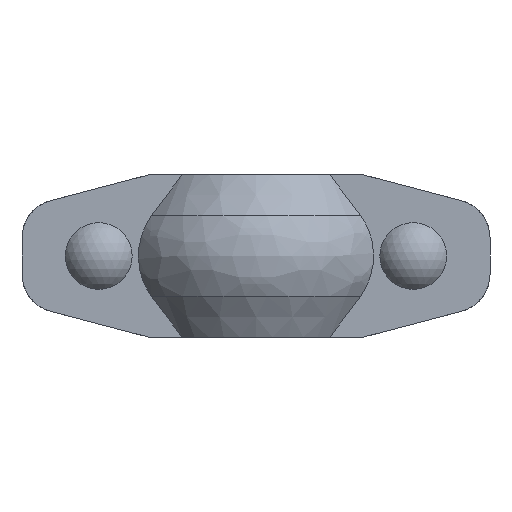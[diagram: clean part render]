
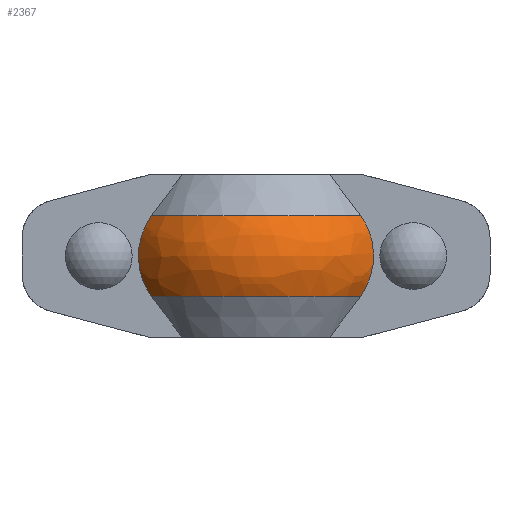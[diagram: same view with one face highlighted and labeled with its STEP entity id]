
A CAD part, front view. The second image highlights one B-rep face of the part: STEP entity #2367.
In plain terms, the highlighted free-form (B-spline) face has degree [2, 2] with [3, 5] control points.
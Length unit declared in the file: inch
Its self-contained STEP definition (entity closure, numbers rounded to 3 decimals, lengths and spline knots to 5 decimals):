
#45=(
BOUNDED_SURFACE()
B_SPLINE_SURFACE(2,2,((#4635,#4636,#4637,#4638,#4639),(#4640,#4641,#4642,
#4643,#4644),(#4645,#4646,#4647,#4648,#4649)),.UNSPECIFIED.,.F.,.F.,.F.)
B_SPLINE_SURFACE_WITH_KNOTS((3,3),(3,2,3),(-0.52695,0.52695),
(0.55733,1.5708,2.58426),.UNSPECIFIED.)
GEOMETRIC_REPRESENTATION_ITEM()
RATIONAL_B_SPLINE_SURFACE(((1.,0.874,1.,0.874,1.),
(0.864,0.756,0.864,0.756,
0.864),(1.,0.874,1.,0.874,1.)))
REPRESENTATION_ITEM('')
SURFACE()
);
#80=B_SPLINE_CURVE_WITH_KNOTS('',3,(#4547,#4548,#4549,#4550,#4551,#4552,
#4553,#4554,#4555,#4556,#4557,#4558,#4559,#4560,#4561,#4562,#4563,#4564),
 .UNSPECIFIED.,.F.,.F.,(4,2,2,2,2,2,2,2,4),(13.65223,13.80191,
14.2161,14.60681,14.99752,15.38823,15.77894,
16.19314,16.34281),.UNSPECIFIED.);
#83=B_SPLINE_CURVE_WITH_KNOTS('',3,(#4594,#4595,#4596,#4597,#4598,#4599,
#4600,#4601,#4602,#4603,#4604,#4605,#4606,#4607,#4608,#4609,#4610,#4611),
 .UNSPECIFIED.,.F.,.F.,(4,2,2,2,2,2,2,2,4),(3.65388,3.80356,
4.21776,4.60846,4.99917,5.38988,5.78059,
6.19479,6.34446),.UNSPECIFIED.);
#322=FACE_OUTER_BOUND('',#459,.T.);
#459=EDGE_LOOP('',(#2056,#2057,#2058,#2059));
#881=CIRCLE('',#2618,1.67261);
#885=CIRCLE('',#2624,1.67261);
#1088=VERTEX_POINT('',#4541);
#1089=VERTEX_POINT('',#4546);
#1095=VERTEX_POINT('',#4588);
#1096=VERTEX_POINT('',#4593);
#1401=EDGE_CURVE('',#1089,#1088,#80,.T.);
#1411=EDGE_CURVE('',#1096,#1095,#83,.T.);
#1418=EDGE_CURVE('',#1096,#1088,#881,.T.);
#1422=EDGE_CURVE('',#1089,#1095,#885,.T.);
#2056=ORIENTED_EDGE('',*,*,#1411,.T.);
#2057=ORIENTED_EDGE('',*,*,#1422,.F.);
#2058=ORIENTED_EDGE('',*,*,#1401,.T.);
#2059=ORIENTED_EDGE('',*,*,#1418,.F.);
#2367=ADVANCED_FACE('',(#322),#45,.F.);
#2618=AXIS2_PLACEMENT_3D('',#4629,#3262,#3263);
#2624=AXIS2_PLACEMENT_3D('',#4650,#3274,#3275);
#3262=DIRECTION('center_axis',(0.,0.,1.));
#3263=DIRECTION('ref_axis',(0.,1.,0.));
#3274=DIRECTION('center_axis',(0.,0.,-1.));
#3275=DIRECTION('ref_axis',(0.,1.,0.));
#4541=CARTESIAN_POINT('',(1.36968,-0.96,0.52788));
#4546=CARTESIAN_POINT('',(1.36968,-0.96,-0.52788));
#4547=CARTESIAN_POINT('Ctrl Pts',(1.36968,-0.96,-0.52788));
#4548=CARTESIAN_POINT('Ctrl Pts',(1.38197,-0.96,-0.51058));
#4549=CARTESIAN_POINT('Ctrl Pts',(1.39381,-0.96,-0.49269));
#4550=CARTESIAN_POINT('Ctrl Pts',(1.43606,-0.96,-0.42384));
#4551=CARTESIAN_POINT('Ctrl Pts',(1.46203,-0.96,-0.37018));
#4552=CARTESIAN_POINT('Ctrl Pts',(1.49961,-0.96,-0.27145));
#4553=CARTESIAN_POINT('Ctrl Pts',(1.51524,-0.96,-0.21741));
#4554=CARTESIAN_POINT('Ctrl Pts',(1.53561,-0.96,-0.10732));
#4555=CARTESIAN_POINT('Ctrl Pts',(1.54033,-0.96,-0.05127));
#4556=CARTESIAN_POINT('Ctrl Pts',(1.54033,-0.96,0.05127));
#4557=CARTESIAN_POINT('Ctrl Pts',(1.53561,-0.96,0.10732));
#4558=CARTESIAN_POINT('Ctrl Pts',(1.51524,-0.96,0.21741));
#4559=CARTESIAN_POINT('Ctrl Pts',(1.49961,-0.96,0.27145));
#4560=CARTESIAN_POINT('Ctrl Pts',(1.46203,-0.96,0.37018));
#4561=CARTESIAN_POINT('Ctrl Pts',(1.43606,-0.96,0.42384));
#4562=CARTESIAN_POINT('Ctrl Pts',(1.39381,-0.96,0.49269));
#4563=CARTESIAN_POINT('Ctrl Pts',(1.38197,-0.96,0.51058));
#4564=CARTESIAN_POINT('Ctrl Pts',(1.36968,-0.96,0.52788));
#4588=CARTESIAN_POINT('',(-1.36968,-0.96,-0.52788));
#4593=CARTESIAN_POINT('',(-1.36968,-0.96,0.52788));
#4594=CARTESIAN_POINT('Ctrl Pts',(-1.36968,-0.96,0.52788));
#4595=CARTESIAN_POINT('Ctrl Pts',(-1.38197,-0.96,0.51058));
#4596=CARTESIAN_POINT('Ctrl Pts',(-1.39381,-0.96,0.49269));
#4597=CARTESIAN_POINT('Ctrl Pts',(-1.43606,-0.96,0.42384));
#4598=CARTESIAN_POINT('Ctrl Pts',(-1.46203,-0.96,0.37018));
#4599=CARTESIAN_POINT('Ctrl Pts',(-1.49961,-0.96,0.27145));
#4600=CARTESIAN_POINT('Ctrl Pts',(-1.51524,-0.96,0.21741));
#4601=CARTESIAN_POINT('Ctrl Pts',(-1.53561,-0.96,0.10732));
#4602=CARTESIAN_POINT('Ctrl Pts',(-1.54033,-0.96,0.05127));
#4603=CARTESIAN_POINT('Ctrl Pts',(-1.54033,-0.96,-0.05127));
#4604=CARTESIAN_POINT('Ctrl Pts',(-1.53561,-0.96,-0.10732));
#4605=CARTESIAN_POINT('Ctrl Pts',(-1.51524,-0.96,-0.21741));
#4606=CARTESIAN_POINT('Ctrl Pts',(-1.49961,-0.96,-0.27145));
#4607=CARTESIAN_POINT('Ctrl Pts',(-1.46203,-0.96,-0.37018));
#4608=CARTESIAN_POINT('Ctrl Pts',(-1.43606,-0.96,-0.42384));
#4609=CARTESIAN_POINT('Ctrl Pts',(-1.39381,-0.96,-0.49269));
#4610=CARTESIAN_POINT('Ctrl Pts',(-1.38197,-0.96,-0.51058));
#4611=CARTESIAN_POINT('Ctrl Pts',(-1.36968,-0.96,-0.52788));
#4629=CARTESIAN_POINT('Origin',(0.,0.,0.52788));
#4635=CARTESIAN_POINT('Ctrl Pts',(1.41949,-0.88468,0.52788));
#4636=CARTESIAN_POINT('Ctrl Pts',(0.92842,-1.67261,0.52788));
#4637=CARTESIAN_POINT('Ctrl Pts',(0.,-1.67261,
0.52788));
#4638=CARTESIAN_POINT('Ctrl Pts',(-0.92842,-1.67261,0.52788));
#4639=CARTESIAN_POINT('Ctrl Pts',(-1.41949,-0.88468,
0.52788));
#4640=CARTESIAN_POINT('Ctrl Pts',(1.68014,-1.04714,0.));
#4641=CARTESIAN_POINT('Ctrl Pts',(1.0989,-1.97974,0.));
#4642=CARTESIAN_POINT('Ctrl Pts',(0.,-1.97974,
0.));
#4643=CARTESIAN_POINT('Ctrl Pts',(-1.0989,-1.97974,0.));
#4644=CARTESIAN_POINT('Ctrl Pts',(-1.68014,-1.04714,0.));
#4645=CARTESIAN_POINT('Ctrl Pts',(1.41949,-0.88468,-0.52788));
#4646=CARTESIAN_POINT('Ctrl Pts',(0.92842,-1.67261,-0.52788));
#4647=CARTESIAN_POINT('Ctrl Pts',(0.,-1.67261,
-0.52788));
#4648=CARTESIAN_POINT('Ctrl Pts',(-0.92842,-1.67261,
-0.52788));
#4649=CARTESIAN_POINT('Ctrl Pts',(-1.41949,-0.88468,-0.52788));
#4650=CARTESIAN_POINT('Origin',(0.,0.,-0.52788));
